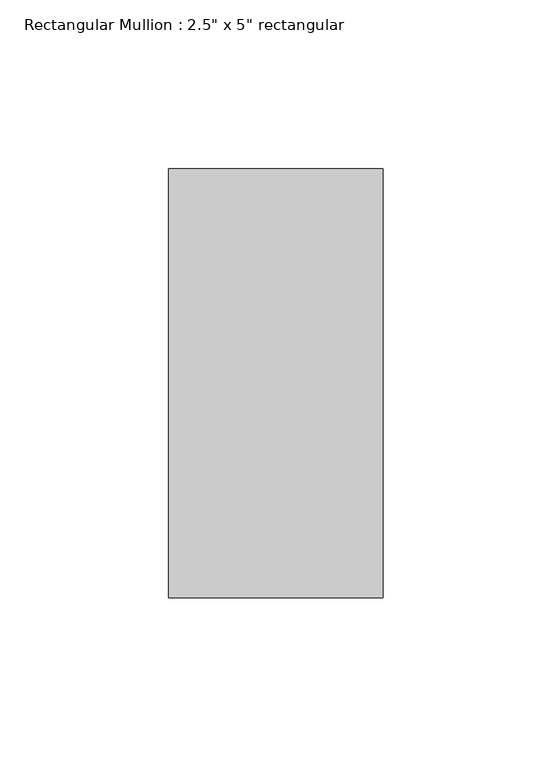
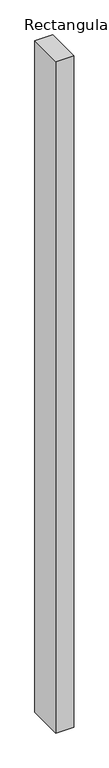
"""IFC4 building model written with IfcOpenShell, lengths in millimetres: member geometry."""

from ifc_helpers import new_model, si_unit, frame, origin, place, context, project, spatial, polyline, outline, extrude, source, transform, mapped, element, save


def member_5ef46571(model_context):
    return source(origin(), model_context, "Body", "SweptSolid", [
        extrude(outline(polyline([(31.75, 63.5), (31.75, -63.5), (-31.75, -63.5), (-31.75, 63.5), (31.75, 63.5)])), frame((0.0, 0.0, -2495.55), z_axis=(0.0, 0.0, 1.0), x_axis=(1.0, 0.0, 0.0)), (0.0, 0.0, 1.0), 2495.55),
    ])


if __name__ == "__main__":
    model = new_model("IFC4")
    model_context = context("Model", 3, world=origin())
    ifc_project = project(units=[si_unit("LENGTHUNIT", "METRE", prefix="MILLI")], contexts=[model_context])
    site = spatial("IfcSite", under=ifc_project)
    building = spatial("IfcBuilding", under=site)
    placement = place(None, origin())
    member_shape = member_5ef46571(model_context)
    element("IfcMember", 1, ObjectType="Rectangular Mullion : 2.5\" x 5\" rectangular", at=placement, inside=building, context=model_context, shape_type="MappedRepresentation", body=[
        mapped(member_shape, transform((0.0, 0.0, 0.0), x_axis=(1.0, 0.0, 0.0), y_axis=(0.0, 1.0, 0.0), z_axis=(0.0, 0.0, 1.0))),
    ])
    save(model, "model.ifc")
